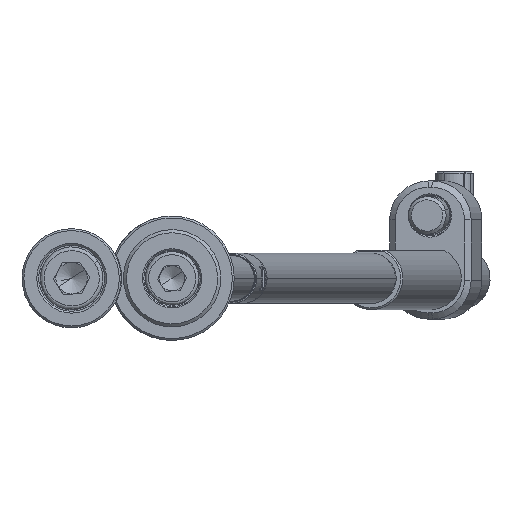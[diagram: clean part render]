
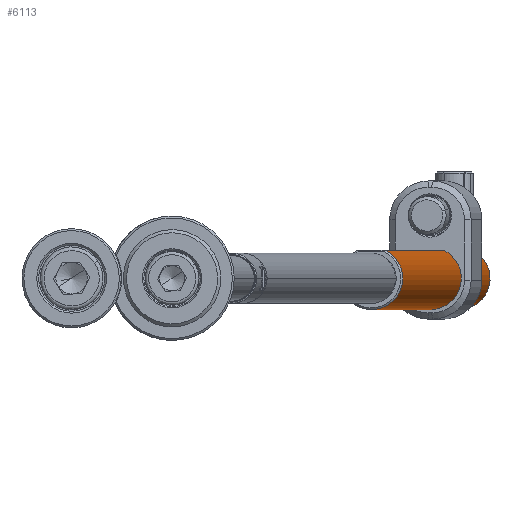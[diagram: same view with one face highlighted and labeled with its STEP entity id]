
A CAD part, front view. The second image highlights one B-rep face of the part: STEP entity #6113.
In plain terms, the highlighted cylindrical face has radius 5 mm (diameter 10 mm), a partial arc.
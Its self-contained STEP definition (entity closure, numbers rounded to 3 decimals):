
#129 = CARTESIAN_POINT ( 'NONE',  ( 4.068, -2.908, 9.236 ) ) ;
#613 = DIRECTION ( 'NONE',  ( 0., 0., -1. ) ) ;
#906 = DIRECTION ( 'NONE',  ( -1., 0., 0. ) ) ;
#1032 = VERTEX_POINT ( 'NONE', #11428 ) ;
#1048 = VECTOR ( 'NONE', #8369, 1000. ) ;
#1066 = VERTEX_POINT ( 'NONE', #5820 ) ;
#1082 = CARTESIAN_POINT ( 'NONE',  ( 4.014, -2.982, 9.617 ) ) ;
#1108 = EDGE_CURVE ( 'NONE', #6351, #8744, #11169, .T. ) ;
#1258 = ORIENTED_EDGE ( 'NONE', *, *, #12783, .T. ) ;
#1288 = ORIENTED_EDGE ( 'NONE', *, *, #5009, .F. ) ;
#1954 = EDGE_CURVE ( 'NONE', #12973, #1032, #10326, .T. ) ;
#2045 = CARTESIAN_POINT ( 'NONE',  ( 0., 0., 199.7 ) ) ;
#2055 = LINE ( 'NONE', #5470, #7886 ) ;
#3053 = EDGE_CURVE ( 'NONE', #5297, #1066, #5558, .T. ) ;
#3170 = CARTESIAN_POINT ( 'NONE',  ( 4.259, -2.621, 11.47 ) ) ;
#3376 = CARTESIAN_POINT ( 'NONE',  ( 4.069, -2.906, 10.771 ) ) ;
#4255 = CARTESIAN_POINT ( 'NONE',  ( 4.5, -2.179, 12.062 ) ) ;
#4365 = DIRECTION ( 'NONE',  ( 0., 0., 1. ) ) ;
#4540 = CARTESIAN_POINT ( 'NONE',  ( 4.376, -2.422, 8.22 ) ) ;
#4613 = CARTESIAN_POINT ( 'NONE',  ( 4.107, -2.852, 9.051 ) ) ;
#4844 = EDGE_CURVE ( 'NONE', #12973, #5297, #5774, .T. ) ;
#4916 = VECTOR ( 'NONE', #7206, 1000. ) ;
#5003 = AXIS2_PLACEMENT_3D ( 'NONE', #8666, #4365, #7647 ) ;
#5009 = EDGE_CURVE ( 'NONE', #1066, #8744, #2055, .T. ) ;
#5297 = VERTEX_POINT ( 'NONE', #13868 ) ;
#5470 = CARTESIAN_POINT ( 'NONE',  ( 4.5, -2.179, 200. ) ) ;
#5558 = B_SPLINE_CURVE_WITH_KNOTS ( 'NONE', 3,
 ( #4255, #8630, #13017, #3170, #13349, #11049, #3376, #7752, #10837, #13286, #1082, #129, #4613, #8768, #9848, #4540, #13115, #11131 ),
 .UNSPECIFIED., .F., .F.,
 ( 4, 2, 2, 2, 2, 2, 2, 2, 4 ),
 ( 0., 0.001, 0.001, 0.002, 0.002, 0.003, 0.003, 0.004, 0.005 ),
 .UNSPECIFIED. ) ;
#5683 = ORIENTED_EDGE ( 'NONE', *, *, #1954, .T. ) ;
#5774 = LINE ( 'NONE', #10154, #4916 ) ;
#5820 = CARTESIAN_POINT ( 'NONE',  ( 4.5, -2.179, 7.938 ) ) ;
#5855 = CARTESIAN_POINT ( 'NONE',  ( 4.5, -2.179, 0.3 ) ) ;
#6075 = CARTESIAN_POINT ( 'NONE',  ( 0., 0., 200. ) ) ;
#6113 = ADVANCED_FACE ( 'NONE', ( #6281 ), #12902, .T. ) ;
#6281 = FACE_OUTER_BOUND ( 'NONE', #7492, .T. ) ;
#6351 = VERTEX_POINT ( 'NONE', #9139 ) ;
#6429 = DIRECTION ( 'NONE',  ( 0., 0., -1. ) ) ;
#7206 = DIRECTION ( 'NONE',  ( 0., 0., -1. ) ) ;
#7365 = ORIENTED_EDGE ( 'NONE', *, *, #1108, .T. ) ;
#7492 = EDGE_LOOP ( 'NONE', ( #5683, #1258, #7365, #1288, #8982, #11723 ) ) ;
#7647 = DIRECTION ( 'NONE',  ( 1., 0., 0. ) ) ;
#7752 = CARTESIAN_POINT ( 'NONE',  ( 4.015, -2.98, 10.396 ) ) ;
#7886 = VECTOR ( 'NONE', #6429, 1000. ) ;
#8369 = DIRECTION ( 'NONE',  ( 0., 0., -1. ) ) ;
#8630 = CARTESIAN_POINT ( 'NONE',  ( 4.438, -2.307, 11.926 ) ) ;
#8666 = CARTESIAN_POINT ( 'NONE',  ( 0., 0., 0.3 ) ) ;
#8744 = VERTEX_POINT ( 'NONE', #5855 ) ;
#8768 = CARTESIAN_POINT ( 'NONE',  ( 4.202, -2.711, 8.701 ) ) ;
#8863 = CARTESIAN_POINT ( 'NONE',  ( 4.5, -2.179, 199.7 ) ) ;
#8982 = ORIENTED_EDGE ( 'NONE', *, *, #3053, .F. ) ;
#9139 = CARTESIAN_POINT ( 'NONE',  ( -5., 0., 0.3 ) ) ;
#9848 = CARTESIAN_POINT ( 'NONE',  ( 4.258, -2.623, 8.532 ) ) ;
#10154 = CARTESIAN_POINT ( 'NONE',  ( 4.5, -2.179, 200. ) ) ;
#10326 = CIRCLE ( 'NONE', #11479, 5. ) ;
#10740 = CARTESIAN_POINT ( 'NONE',  ( -5., 0., 200. ) ) ;
#10837 = CARTESIAN_POINT ( 'NONE',  ( 4., -3., 10.198 ) ) ;
#11049 = CARTESIAN_POINT ( 'NONE',  ( 4.108, -2.851, 10.952 ) ) ;
#11131 = CARTESIAN_POINT ( 'NONE',  ( 4.5, -2.179, 7.938 ) ) ;
#11169 = CIRCLE ( 'NONE', #5003, 5. ) ;
#11428 = CARTESIAN_POINT ( 'NONE',  ( -5., 0., 199.7 ) ) ;
#11479 = AXIS2_PLACEMENT_3D ( 'NONE', #2045, #12966, #11803 ) ;
#11723 = ORIENTED_EDGE ( 'NONE', *, *, #4844, .F. ) ;
#11803 = DIRECTION ( 'NONE',  ( 1., 0., 0. ) ) ;
#11841 = AXIS2_PLACEMENT_3D ( 'NONE', #6075, #613, #906 ) ;
#12783 = EDGE_CURVE ( 'NONE', #1032, #6351, #13892, .T. ) ;
#12902 = CYLINDRICAL_SURFACE ( 'NONE', #11841, 5. ) ;
#12966 = DIRECTION ( 'NONE',  ( 0., 0., -1. ) ) ;
#12973 = VERTEX_POINT ( 'NONE', #8863 ) ;
#13017 = CARTESIAN_POINT ( 'NONE',  ( 4.376, -2.421, 11.781 ) ) ;
#13115 = CARTESIAN_POINT ( 'NONE',  ( 4.438, -2.308, 8.074 ) ) ;
#13286 = CARTESIAN_POINT ( 'NONE',  ( 4., -3., 9.809 ) ) ;
#13349 = CARTESIAN_POINT ( 'NONE',  ( 4.203, -2.709, 11.303 ) ) ;
#13868 = CARTESIAN_POINT ( 'NONE',  ( 4.5, -2.179, 12.062 ) ) ;
#13892 = LINE ( 'NONE', #10740, #1048 ) ;
